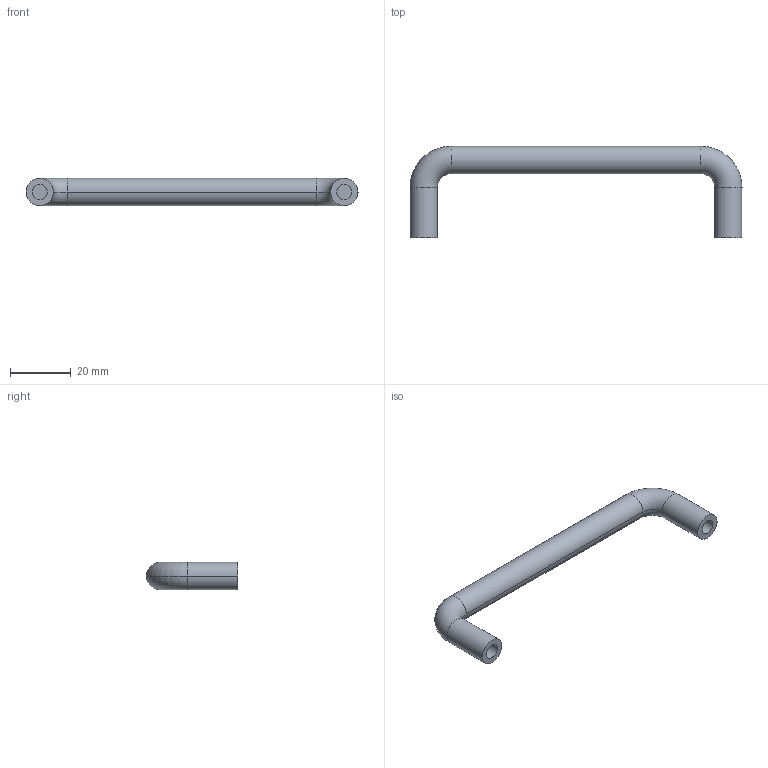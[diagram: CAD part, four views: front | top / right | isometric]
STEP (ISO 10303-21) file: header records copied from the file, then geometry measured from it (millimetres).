
FILE_DESCRIPTION (( 'STEP AP214' ), '1' );
FILE_NAME ('A84 KA-1251-6.STEP', '2012-02-22T01:58:20', ( '' ), ( '' ), 'SwSTEP 2.0', 'SolidWorks 2012', '' );
FILE_SCHEMA (( 'AUTOMOTIVE_DESIGN' ));
Length unit declared in the file: millimetre
Products named in the file (1): A84 KA-1251-6
Bounding box: 109 x 30 x 9 mm (x, y, z)
Volume: 8800.6 mm3; surface area: 4429.5 mm2
Topology: 1 solids, 1 shells, 18 faces, 34 edges, 20 vertices
Faces by surface type: cylinder 10, torus 4, plane 4
Entity records: 492 total; most frequent: DIRECTION 96, CARTESIAN_POINT 73, ORIENTED_EDGE 68, AXIS2_PLACEMENT_3D 43, EDGE_CURVE 34, CIRCLE 24, EDGE_LOOP 20, VERTEX_POINT 20
